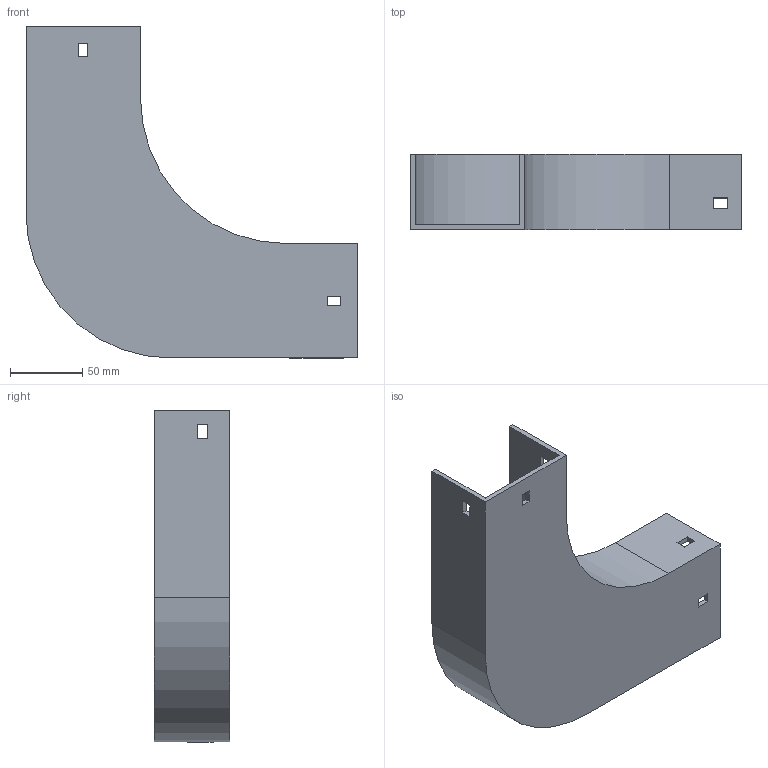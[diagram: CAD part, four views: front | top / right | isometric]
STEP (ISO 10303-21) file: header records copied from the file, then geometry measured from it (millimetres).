
FILE_DESCRIPTION (( 'STEP AP214' ), '1' );
FILE_NAME ('10B1B075.step', '2025-02-21T09:40:23', ( '' ), ( '' ), 'SwSTEP 2.0', 'SolidWorks 2023', '' );
FILE_SCHEMA (( 'AUTOMOTIVE_DESIGN' ));
Length unit declared in the file: millimetre
Products named in the file (1): 10B1B075
Bounding box: 229 x 52 x 229 mm (x, y, z)
Volume: 217503 mm3; surface area: 128565 mm2
Topology: 1 solids, 1 shells, 42 faces, 120 edges, 80 vertices
Faces by surface type: plane 38, cylinder 4
Entity records: 1399 total; most frequent: CARTESIAN_POINT 243, ORIENTED_EDGE 240, DIRECTION 214, EDGE_CURVE 120, LINE 112, VECTOR 112, VERTEX_POINT 80, EDGE_LOOP 54
